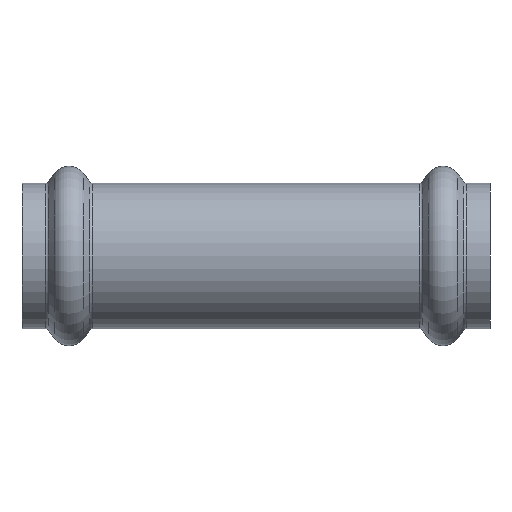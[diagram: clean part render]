
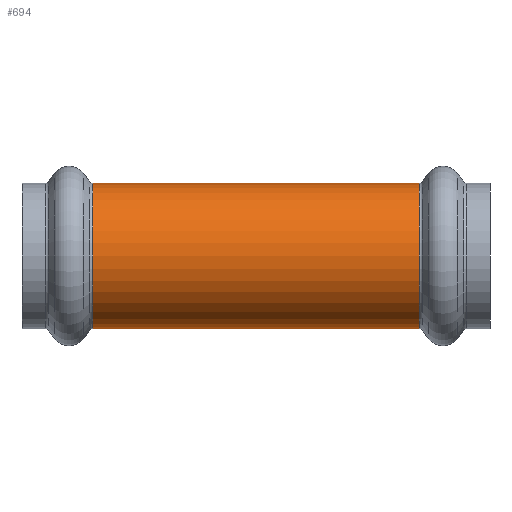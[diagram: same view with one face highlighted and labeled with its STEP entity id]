
A CAD part, front view. The second image highlights one B-rep face of the part: STEP entity #694.
In plain terms, the highlighted cylindrical face has radius 15.443 mm (diameter 30.886 mm), a full revolution.
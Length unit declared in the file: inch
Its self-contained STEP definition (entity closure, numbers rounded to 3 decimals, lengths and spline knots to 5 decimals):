
#51=CYLINDRICAL_SURFACE('',#788,0.608);
#61=LINE('',#1256,#75);
#75=VECTOR('',#994,0.608);
#104=FACE_OUTER_BOUND('',#133,.T.);
#133=EDGE_LOOP('',(#525,#526,#527,#528,#529,#530,#531,#532));
#192=CIRCLE('',#785,0.608);
#193=CIRCLE('',#786,0.608);
#194=CIRCLE('',#787,0.608);
#195=CIRCLE('',#789,0.608);
#196=CIRCLE('',#790,0.608);
#197=CIRCLE('',#791,0.608);
#278=VERTEX_POINT('',#1243);
#279=VERTEX_POINT('',#1245);
#280=VERTEX_POINT('',#1247);
#281=VERTEX_POINT('',#1251);
#282=VERTEX_POINT('',#1252);
#283=VERTEX_POINT('',#1254);
#370=EDGE_CURVE('',#279,#278,#192,.T.);
#371=EDGE_CURVE('',#280,#279,#193,.T.);
#372=EDGE_CURVE('',#278,#280,#194,.T.);
#373=EDGE_CURVE('',#281,#282,#195,.T.);
#374=EDGE_CURVE('',#283,#281,#196,.T.);
#375=EDGE_CURVE('',#283,#280,#61,.T.);
#376=EDGE_CURVE('',#282,#283,#197,.T.);
#525=ORIENTED_EDGE('',*,*,#373,.F.);
#526=ORIENTED_EDGE('',*,*,#374,.F.);
#527=ORIENTED_EDGE('',*,*,#375,.T.);
#528=ORIENTED_EDGE('',*,*,#371,.T.);
#529=ORIENTED_EDGE('',*,*,#370,.T.);
#530=ORIENTED_EDGE('',*,*,#372,.T.);
#531=ORIENTED_EDGE('',*,*,#375,.F.);
#532=ORIENTED_EDGE('',*,*,#376,.F.);
#694=ADVANCED_FACE('',(#104),#51,.T.);
#785=AXIS2_PLACEMENT_3D('',#1246,#982,#983);
#786=AXIS2_PLACEMENT_3D('',#1248,#984,#985);
#787=AXIS2_PLACEMENT_3D('',#1249,#986,#987);
#788=AXIS2_PLACEMENT_3D('',#1250,#988,#989);
#789=AXIS2_PLACEMENT_3D('',#1253,#990,#991);
#790=AXIS2_PLACEMENT_3D('',#1255,#992,#993);
#791=AXIS2_PLACEMENT_3D('',#1257,#995,#996);
#982=DIRECTION('center_axis',(1.,0.,0.));
#983=DIRECTION('ref_axis',(0.,1.,0.));
#984=DIRECTION('center_axis',(1.,0.,0.));
#985=DIRECTION('ref_axis',(0.,1.,0.));
#986=DIRECTION('center_axis',(1.,0.,0.));
#987=DIRECTION('ref_axis',(0.,1.,0.));
#988=DIRECTION('center_axis',(1.,0.,0.));
#989=DIRECTION('ref_axis',(0.,1.,0.));
#990=DIRECTION('center_axis',(1.,0.,0.));
#991=DIRECTION('ref_axis',(0.,1.,0.));
#992=DIRECTION('center_axis',(1.,0.,0.));
#993=DIRECTION('ref_axis',(0.,1.,0.));
#994=DIRECTION('',(-1.,0.,0.));
#995=DIRECTION('center_axis',(1.,0.,0.));
#996=DIRECTION('ref_axis',(0.,1.,0.));
#1243=CARTESIAN_POINT('',(-1.36875,0.,0.608));
#1245=CARTESIAN_POINT('',(-1.36875,0.608,0.));
#1246=CARTESIAN_POINT('Origin',(-1.36875,0.,
0.));
#1247=CARTESIAN_POINT('',(-1.36875,-0.608,0.));
#1248=CARTESIAN_POINT('Origin',(-1.36875,0.,
0.));
#1249=CARTESIAN_POINT('Origin',(-1.36875,0.,
0.));
#1250=CARTESIAN_POINT('Origin',(0.68437,0.,
0.));
#1251=CARTESIAN_POINT('',(1.36875,0.608,0.));
#1252=CARTESIAN_POINT('',(1.36875,0.,0.608));
#1253=CARTESIAN_POINT('Origin',(1.36875,0.,
0.));
#1254=CARTESIAN_POINT('',(1.36875,-0.608,0.));
#1255=CARTESIAN_POINT('Origin',(1.36875,0.,
0.));
#1256=CARTESIAN_POINT('',(0.68437,-0.608,0.));
#1257=CARTESIAN_POINT('Origin',(1.36875,0.,
0.));
